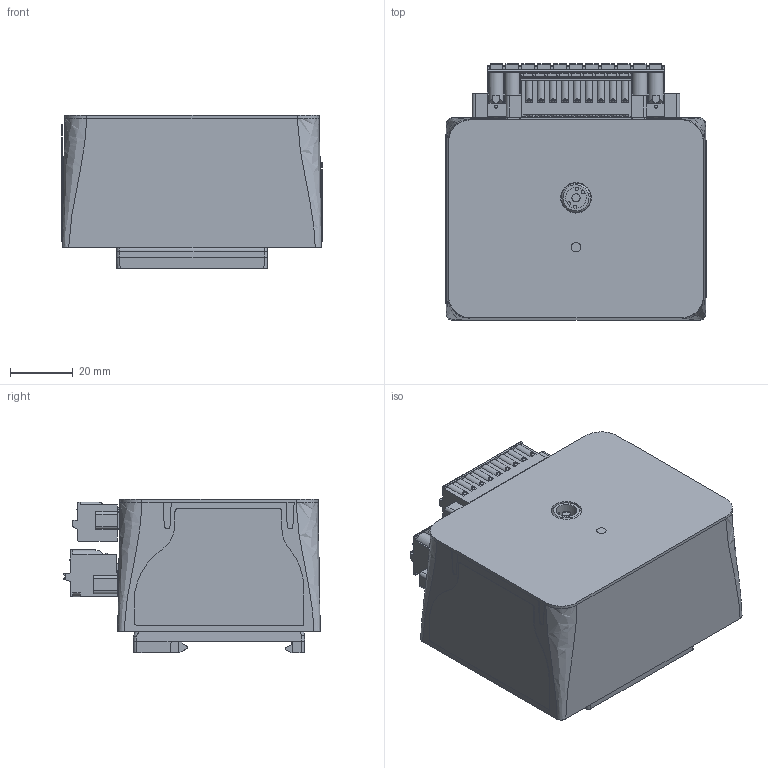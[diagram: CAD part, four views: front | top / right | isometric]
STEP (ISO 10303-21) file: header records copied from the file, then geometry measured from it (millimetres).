
FILE_DESCRIPTION(/* description */ (''),/* implementation_level */ '2;1');
FILE_NAME(/* name */ 'D:\WorkIMT\Project IMT\iVisor\!!!!! КАКТУС\!!! v6\3D на сайт\КАКТУС.stp',/* time_stamp */ '2026-07-31T15:14:06+03:00',/* author */ ('admin'),/* organization */ (''),/* preprocessor_version */ 'ST-DEVELOPER v17.2',/* originating_system */ 'Autodesk Inventor 2019',/* authorisation */ '');
FILE_SCHEMA (('AUTOMOTIVE_DESIGN { 1 0 10303 214 3 1 1 }'));
Products named in the file (1): MT.CACTUS.05для сайта_
TOP
Bounding box: 82.84 x 81.62 x 48.98 mm (x, y, z)
Volume: 75743 mm3; surface area: 74757.6 mm2
Topology: 11 solids, 81 shells, 4375 faces, 11701 edges, 7619 vertices
Faces by surface type: plane 2938, cylinder 1081, cone 201, bspline 87, sphere 40, torus 28
Full cylindrical faces by diameter (mm): 0.457 x3, 1.12 x4, 1.2 x9, 1.25 x9, 1.4 x2, 1.6 x2, 1.75 x4, 2.146 x2, 2.3 x2, 2.5 x6, 2.6 x1, 2.8 x10, 3.1 x9, 3.242 x2, 3.8 x4, 3.9 x4, 4 x13, 4.7 x4, 7.4 x2, 9.3 x1, 9.7 x1
Entity records: 150041 total; most frequent: CARTESIAN_POINT 33850, DIRECTION 23398, ORIENTED_EDGE 23348, EDGE_CURVE 11674, LINE 8000, VECTOR 8000, AXIS2_PLACEMENT_3D 7699, VERTEX_POINT 7618
